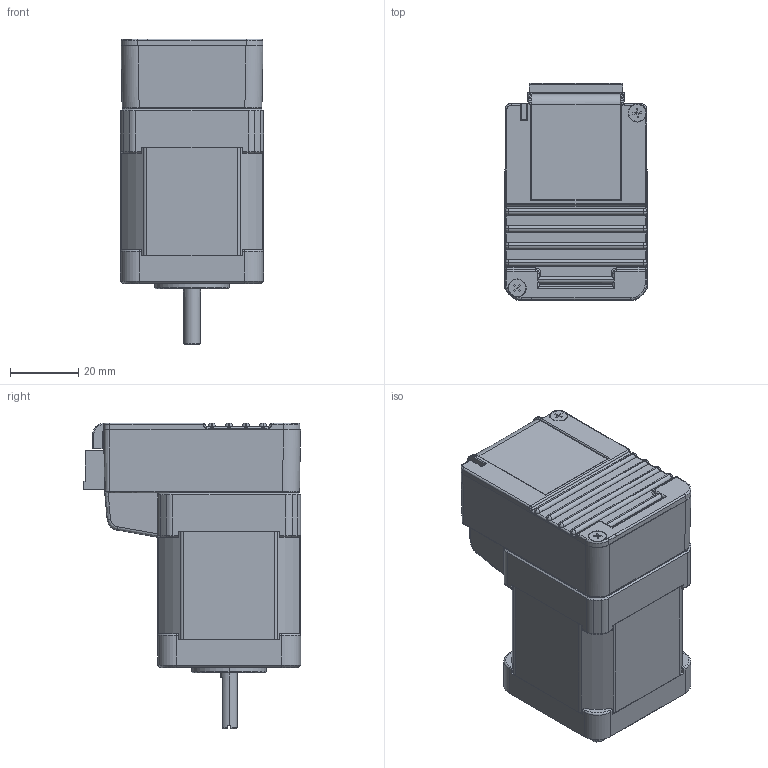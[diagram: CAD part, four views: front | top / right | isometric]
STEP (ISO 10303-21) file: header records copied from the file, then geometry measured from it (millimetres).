
FILE_DESCRIPTION (( 'STEP AP214' ), '1' );
FILE_NAME ('CM3-17L50A.STEP', '2021-07-20T14:28:59', ( '' ), ( '' ), 'SwSTEP 2.0', 'SolidWorks 2019', '' );
FILE_SCHEMA (( 'AUTOMOTIVE_DESIGN' ));
Length unit declared in the file: millimetre
Products named in the file (1): CM3-17L50A
Bounding box: 42 x 63.75 x 89.8 mm (x, y, z)
Volume: 138855.2 mm3; surface area: 22579.7 mm2
Topology: 1 solids, 1 shells, 746 faces, 1890 edges, 1193 vertices
Faces by surface type: plane 387, cylinder 206, cone 70, bspline 31, torus 31, sphere 21
Entity records: 26726 total; most frequent: CARTESIAN_POINT 5360, ORIENTED_EDGE 3772, DIRECTION 3502, EDGE_CURVE 1886, VERTEX_POINT 1193, LINE 1188, VECTOR 1188, AXIS2_PLACEMENT_3D 1157
